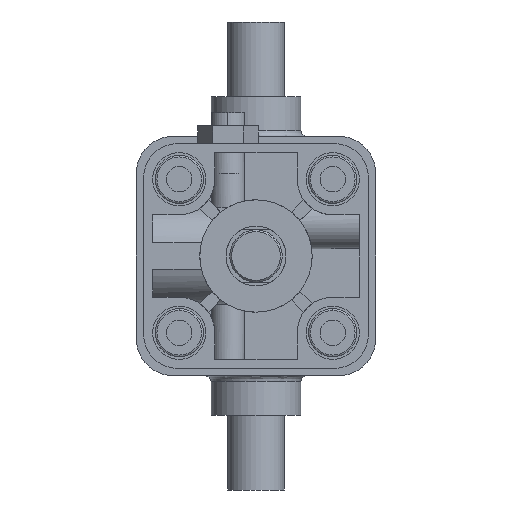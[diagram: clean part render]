
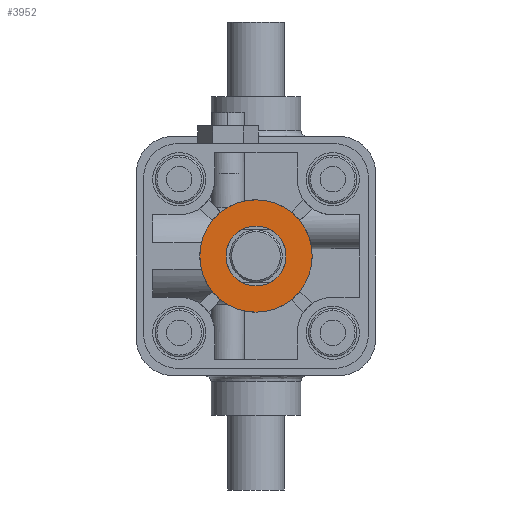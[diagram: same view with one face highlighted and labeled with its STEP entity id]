
A CAD part, left-side view. The second image highlights one B-rep face of the part: STEP entity #3952.
In plain terms, the highlighted planar face has unit normal (-1, 0, 0) as drawn and (1, 0, 0) by its records, which use the part's own axes.
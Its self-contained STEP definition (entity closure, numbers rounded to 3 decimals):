
#270 = VERTEX_POINT ( 'NONE', #10548 ) ;
#330 = CIRCLE ( 'NONE', #3833, 15. ) ;
#500 = CIRCLE ( 'NONE', #6315, 8. ) ;
#708 = CARTESIAN_POINT ( 'NONE',  ( 24.5, 0., 8. ) ) ;
#725 = CARTESIAN_POINT ( 'NONE',  ( 24.5, 8., 0. ) ) ;
#898 = CIRCLE ( 'NONE', #3717, 15. ) ;
#1663 = CARTESIAN_POINT ( 'NONE',  ( 24.5, 0., 0. ) ) ;
#1919 = CARTESIAN_POINT ( 'NONE',  ( 24.5, 0., -8. ) ) ;
#2115 = ORIENTED_EDGE ( 'NONE', *, *, #11570, .T. ) ;
#2655 = EDGE_CURVE ( 'NONE', #3590, #270, #330, .T. ) ;
#2845 = DIRECTION ( 'NONE',  ( -1., 0., 0. ) ) ;
#3160 = DIRECTION ( 'NONE',  ( -1., 0., 0. ) ) ;
#3383 = DIRECTION ( 'NONE',  ( 0., 0., 1. ) ) ;
#3590 = VERTEX_POINT ( 'NONE', #6098 ) ;
#3604 = EDGE_LOOP ( 'NONE', ( #7794, #6056 ) ) ;
#3717 = AXIS2_PLACEMENT_3D ( 'NONE', #6463, #2845, #4379 ) ;
#3833 = AXIS2_PLACEMENT_3D ( 'NONE', #1663, #3160, #10092 ) ;
#3952 = ADVANCED_FACE ( 'NONE', ( #4724, #4135 ), #7956, .F. ) ;
#4135 = FACE_BOUND ( 'NONE', #4165, .T. ) ;
#4165 = EDGE_LOOP ( 'NONE', ( #2115, #5266 ) ) ;
#4222 = AXIS2_PLACEMENT_3D ( 'NONE', #725, #10482, #9706 ) ;
#4297 = VERTEX_POINT ( 'NONE', #708 ) ;
#4379 = DIRECTION ( 'NONE',  ( 0., 0., 1. ) ) ;
#4724 = FACE_OUTER_BOUND ( 'NONE', #3604, .T. ) ;
#5266 = ORIENTED_EDGE ( 'NONE', *, *, #10802, .T. ) ;
#6056 = ORIENTED_EDGE ( 'NONE', *, *, #7309, .F. ) ;
#6098 = CARTESIAN_POINT ( 'NONE',  ( 24.5, 0., 15. ) ) ;
#6131 = CIRCLE ( 'NONE', #11658, 8. ) ;
#6212 = DIRECTION ( 'NONE',  ( -1., 0., 0. ) ) ;
#6315 = AXIS2_PLACEMENT_3D ( 'NONE', #11164, #7285, #10984 ) ;
#6463 = CARTESIAN_POINT ( 'NONE',  ( 24.5, 0., 0. ) ) ;
#6586 = VERTEX_POINT ( 'NONE', #1919 ) ;
#7285 = DIRECTION ( 'NONE',  ( -1., 0., 0. ) ) ;
#7309 = EDGE_CURVE ( 'NONE', #270, #3590, #898, .T. ) ;
#7794 = ORIENTED_EDGE ( 'NONE', *, *, #2655, .F. ) ;
#7956 = PLANE ( 'NONE',  #4222 ) ;
#9121 = CARTESIAN_POINT ( 'NONE',  ( 24.5, 0., 0. ) ) ;
#9706 = DIRECTION ( 'NONE',  ( 0., 0., 1. ) ) ;
#10092 = DIRECTION ( 'NONE',  ( 0., 0., 1. ) ) ;
#10482 = DIRECTION ( 'NONE',  ( -1., 0., 0. ) ) ;
#10548 = CARTESIAN_POINT ( 'NONE',  ( 24.5, 0., -15. ) ) ;
#10802 = EDGE_CURVE ( 'NONE', #6586, #4297, #500, .T. ) ;
#10984 = DIRECTION ( 'NONE',  ( 0., 0., 1. ) ) ;
#11164 = CARTESIAN_POINT ( 'NONE',  ( 24.5, 0., 0. ) ) ;
#11570 = EDGE_CURVE ( 'NONE', #4297, #6586, #6131, .T. ) ;
#11658 = AXIS2_PLACEMENT_3D ( 'NONE', #9121, #6212, #3383 ) ;
